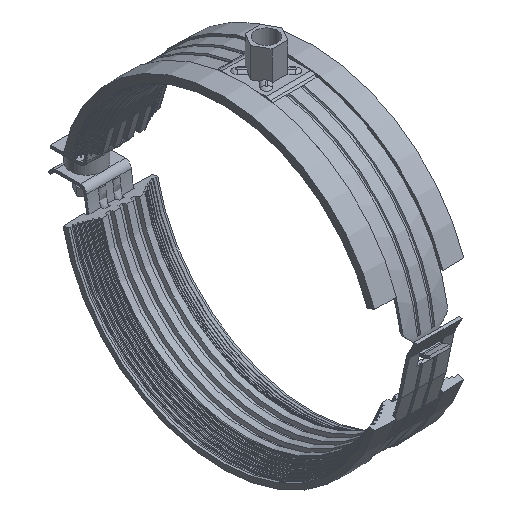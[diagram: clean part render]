
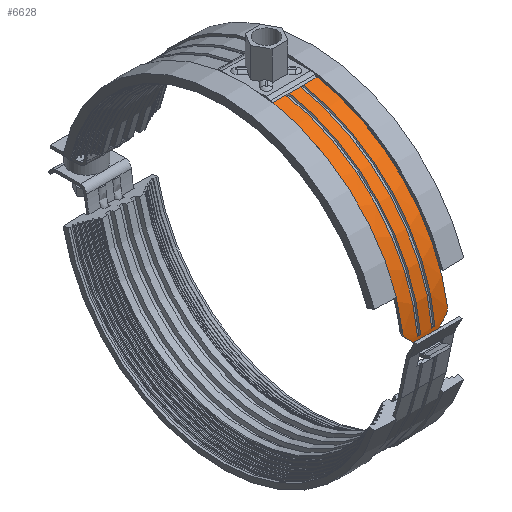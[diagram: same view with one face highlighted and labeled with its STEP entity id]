
A CAD part, isometric view. The second image highlights one B-rep face of the part: STEP entity #6628.
In plain terms, the highlighted cylindrical face has radius 89.5 mm (diameter 179 mm), a partial arc.
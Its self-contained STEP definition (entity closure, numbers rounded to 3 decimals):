
#41=B_SPLINE_CURVE_WITH_KNOTS('',3,(#10910,#10911,#10912,#10913,#10914,
#10915),.UNSPECIFIED.,.F.,.F.,(4,2,4),(0.863,0.942,
1.131),.UNSPECIFIED.);
#43=B_SPLINE_CURVE_WITH_KNOTS('',3,(#10926,#10927,#10928,#10929,#10930,
#10931),.UNSPECIFIED.,.F.,.F.,(4,2,4),(1.884,2.073,
2.152),.UNSPECIFIED.);
#45=B_SPLINE_CURVE_WITH_KNOTS('',3,(#10948,#10949,#10950,#10951,#10952,
#10953),.UNSPECIFIED.,.F.,.F.,(4,2,4),(0.607,0.759,
0.911),.UNSPECIFIED.);
#46=B_SPLINE_CURVE_WITH_KNOTS('',3,(#10957,#10958,#10959,#10960,#10961,
#10962),.UNSPECIFIED.,.F.,.F.,(4,2,4),(0.302,0.453,
0.605),.UNSPECIFIED.);
#201=ELLIPSE('',#7207,126.572,89.5);
#202=ELLIPSE('',#7211,126.572,89.5);
#263=CYLINDRICAL_SURFACE('',#7215,89.5);
#512=CIRCLE('',#7112,89.5);
#513=CIRCLE('',#7113,89.5);
#516=CIRCLE('',#7119,89.5);
#517=CIRCLE('',#7120,89.5);
#564=CIRCLE('',#7213,89.5);
#565=CIRCLE('',#7216,89.5);
#928=FACE_OUTER_BOUND('',#1286,.T.);
#1286=EDGE_LOOP('',(#5087,#5088,#5089,#5090,#5091,#5092,#5093,#5094,#5095,
#5096,#5097,#5098,#5099,#5100,#5101,#5102,#5103,#5104));
#1641=LINE('',#10470,#2148);
#1649=LINE('',#10505,#2156);
#1692=LINE('',#10773,#2199);
#1693=LINE('',#10777,#2200);
#1694=LINE('',#10778,#2201);
#1713=LINE('',#10963,#2220);
#2148=VECTOR('',#8424,1.776);
#2156=VECTOR('',#8446,1.776);
#2199=VECTOR('',#8597,7.612);
#2200=VECTOR('',#8602,7.612);
#2201=VECTOR('',#8603,6.224);
#2220=VECTOR('',#8700,11.255);
#2742=VERTEX_POINT('',#10453);
#2743=VERTEX_POINT('',#10455);
#2744=VERTEX_POINT('',#10464);
#2745=VERTEX_POINT('',#10466);
#2750=VERTEX_POINT('',#10488);
#2751=VERTEX_POINT('',#10490);
#2752=VERTEX_POINT('',#10499);
#2753=VERTEX_POINT('',#10501);
#2792=VERTEX_POINT('',#10772);
#2793=VERTEX_POINT('',#10775);
#2805=VERTEX_POINT('',#10890);
#2806=VERTEX_POINT('',#10892);
#2808=VERTEX_POINT('',#10897);
#2810=VERTEX_POINT('',#10917);
#2812=VERTEX_POINT('',#10925);
#2814=VERTEX_POINT('',#10940);
#2815=VERTEX_POINT('',#10944);
#2816=VERTEX_POINT('',#10955);
#3488=EDGE_CURVE('',#2742,#2743,#512,.T.);
#3490=EDGE_CURVE('',#2745,#2744,#513,.T.);
#3492=EDGE_CURVE('',#2743,#2745,#1641,.T.);
#3500=EDGE_CURVE('',#2750,#2751,#516,.T.);
#3502=EDGE_CURVE('',#2753,#2752,#517,.T.);
#3504=EDGE_CURVE('',#2751,#2753,#1649,.T.);
#3579=EDGE_CURVE('',#2792,#2742,#1692,.T.);
#3582=EDGE_CURVE('',#2752,#2793,#1693,.T.);
#3583=EDGE_CURVE('',#2744,#2750,#1694,.T.);
#3612=EDGE_CURVE('',#2806,#2805,#201,.T.);
#3617=EDGE_CURVE('',#2808,#2806,#41,.T.);
#3619=EDGE_CURVE('',#2812,#2810,#43,.T.);
#3624=EDGE_CURVE('',#2814,#2812,#202,.T.);
#3626=EDGE_CURVE('',#2792,#2815,#564,.T.);
#3627=EDGE_CURVE('',#2815,#2805,#45,.T.);
#3628=EDGE_CURVE('',#2816,#2793,#565,.T.);
#3629=EDGE_CURVE('',#2814,#2816,#46,.T.);
#3630=EDGE_CURVE('',#2808,#2810,#1713,.T.);
#5087=ORIENTED_EDGE('',*,*,#3490,.T.);
#5088=ORIENTED_EDGE('',*,*,#3583,.T.);
#5089=ORIENTED_EDGE('',*,*,#3500,.T.);
#5090=ORIENTED_EDGE('',*,*,#3504,.T.);
#5091=ORIENTED_EDGE('',*,*,#3502,.T.);
#5092=ORIENTED_EDGE('',*,*,#3582,.T.);
#5093=ORIENTED_EDGE('',*,*,#3628,.F.);
#5094=ORIENTED_EDGE('',*,*,#3629,.F.);
#5095=ORIENTED_EDGE('',*,*,#3624,.T.);
#5096=ORIENTED_EDGE('',*,*,#3619,.T.);
#5097=ORIENTED_EDGE('',*,*,#3630,.F.);
#5098=ORIENTED_EDGE('',*,*,#3617,.T.);
#5099=ORIENTED_EDGE('',*,*,#3612,.T.);
#5100=ORIENTED_EDGE('',*,*,#3627,.F.);
#5101=ORIENTED_EDGE('',*,*,#3626,.F.);
#5102=ORIENTED_EDGE('',*,*,#3579,.T.);
#5103=ORIENTED_EDGE('',*,*,#3488,.T.);
#5104=ORIENTED_EDGE('',*,*,#3492,.T.);
#6628=ADVANCED_FACE('',(#928),#263,.T.);
#7112=AXIS2_PLACEMENT_3D('',#10457,#8416,#8417);
#7113=AXIS2_PLACEMENT_3D('',#10467,#8419,#8420);
#7119=AXIS2_PLACEMENT_3D('',#10492,#8438,#8439);
#7120=AXIS2_PLACEMENT_3D('',#10502,#8441,#8442);
#7207=AXIS2_PLACEMENT_3D('',#10893,#8674,#8675);
#7211=AXIS2_PLACEMENT_3D('',#10942,#8687,#8688);
#7213=AXIS2_PLACEMENT_3D('',#10946,#8692,#8693);
#7215=AXIS2_PLACEMENT_3D('',#10954,#8696,#8697);
#7216=AXIS2_PLACEMENT_3D('',#10956,#8698,#8699);
#8416=DIRECTION('center_axis',(1.,0.,0.));
#8417=DIRECTION('ref_axis',(0.,-0.176,0.984));
#8419=DIRECTION('center_axis',(-1.,0.,0.));
#8420=DIRECTION('ref_axis',(0.,-0.176,0.984));
#8424=DIRECTION('',(-1.,0.,0.));
#8438=DIRECTION('center_axis',(1.,0.,0.));
#8439=DIRECTION('ref_axis',(0.,-0.176,0.984));
#8441=DIRECTION('center_axis',(-1.,0.,0.));
#8442=DIRECTION('ref_axis',(0.,-0.176,0.984));
#8446=DIRECTION('',(-1.,0.,0.));
#8597=DIRECTION('',(-1.,0.,0.));
#8602=DIRECTION('',(-1.,0.,0.));
#8603=DIRECTION('',(-1.,0.,0.));
#8674=DIRECTION('center_axis',(-0.707,0.,0.707));
#8675=DIRECTION('ref_axis',(-0.707,0.,-0.707));
#8687=DIRECTION('center_axis',(0.707,0.,0.707));
#8688=DIRECTION('ref_axis',(0.707,0.,-0.707));
#8692=DIRECTION('center_axis',(1.,0.,0.));
#8693=DIRECTION('ref_axis',(0.,0.176,-0.984));
#8696=DIRECTION('center_axis',(1.,0.,0.));
#8697=DIRECTION('ref_axis',(0.,0.176,-0.984));
#8698=DIRECTION('center_axis',(-1.,0.,0.));
#8699=DIRECTION('ref_axis',(0.,0.176,-0.984));
#8700=DIRECTION('',(-1.,0.,0.));
#10453=CARTESIAN_POINT('',(4.888,-15.793,88.096));
#10455=CARTESIAN_POINT('',(4.888,-89.117,8.269));
#10457=CARTESIAN_POINT('Origin',(4.888,0.,
0.));
#10464=CARTESIAN_POINT('',(3.112,-15.793,88.096));
#10466=CARTESIAN_POINT('',(3.112,-89.117,8.269));
#10467=CARTESIAN_POINT('Origin',(3.112,0.,
0.));
#10470=CARTESIAN_POINT('',(0.,-89.117,8.269));
#10488=CARTESIAN_POINT('',(-3.112,-15.793,88.096));
#10490=CARTESIAN_POINT('',(-3.112,-89.117,8.269));
#10492=CARTESIAN_POINT('Origin',(-3.112,0.,
0.));
#10499=CARTESIAN_POINT('',(-4.888,-15.793,88.096));
#10501=CARTESIAN_POINT('',(-4.888,-89.117,8.269));
#10502=CARTESIAN_POINT('Origin',(-4.888,0.,
0.));
#10505=CARTESIAN_POINT('',(0.,-89.117,8.269));
#10772=CARTESIAN_POINT('',(12.5,-15.793,88.096));
#10773=CARTESIAN_POINT('',(0.,-15.793,88.096));
#10775=CARTESIAN_POINT('',(-12.5,-15.793,88.096));
#10777=CARTESIAN_POINT('',(0.,-15.793,88.096));
#10778=CARTESIAN_POINT('',(0.,-15.793,88.096));
#10890=CARTESIAN_POINT('',(11.328,-88.862,10.668));
#10892=CARTESIAN_POINT('',(6.964,-89.278,6.304));
#10893=CARTESIAN_POINT('Origin',(0.66,0.,0.));
#10897=CARTESIAN_POINT('',(5.628,-89.415,3.891));
#10910=CARTESIAN_POINT('Ctrl Pts',(5.628,-89.415,3.891));
#10911=CARTESIAN_POINT('Ctrl Pts',(5.69,-89.404,4.16));
#10912=CARTESIAN_POINT('Ctrl Pts',(5.774,-89.391,4.426));
#10913=CARTESIAN_POINT('Ctrl Pts',(6.136,-89.345,5.299));
#10914=CARTESIAN_POINT('Ctrl Pts',(6.521,-89.309,5.861));
#10915=CARTESIAN_POINT('Ctrl Pts',(6.964,-89.278,6.304));
#10917=CARTESIAN_POINT('',(-5.628,-89.415,3.891));
#10925=CARTESIAN_POINT('',(-6.964,-89.278,6.304));
#10926=CARTESIAN_POINT('Ctrl Pts',(-6.964,-89.278,
6.304));
#10927=CARTESIAN_POINT('Ctrl Pts',(-6.521,-89.309,
5.861));
#10928=CARTESIAN_POINT('Ctrl Pts',(-6.136,-89.345,
5.299));
#10929=CARTESIAN_POINT('Ctrl Pts',(-5.774,-89.391,
4.426));
#10930=CARTESIAN_POINT('Ctrl Pts',(-5.69,-89.404,
4.16));
#10931=CARTESIAN_POINT('Ctrl Pts',(-5.628,-89.415,
3.891));
#10940=CARTESIAN_POINT('',(-11.328,-88.862,10.668));
#10942=CARTESIAN_POINT('Origin',(-0.66,0.,0.));
#10944=CARTESIAN_POINT('',(12.5,-88.476,13.497));
#10946=CARTESIAN_POINT('Origin',(12.5,0.,0.));
#10948=CARTESIAN_POINT('Ctrl Pts',(12.5,-88.476,13.497));
#10949=CARTESIAN_POINT('Ctrl Pts',(12.5,-88.553,12.996));
#10950=CARTESIAN_POINT('Ctrl Pts',(12.4,-88.63,12.46));
#10951=CARTESIAN_POINT('Ctrl Pts',(11.992,-88.763,11.474));
#10952=CARTESIAN_POINT('Ctrl Pts',(11.684,-88.819,11.024));
#10953=CARTESIAN_POINT('Ctrl Pts',(11.328,-88.862,10.668));
#10954=CARTESIAN_POINT('Origin',(0.,0.,0.));
#10955=CARTESIAN_POINT('',(-12.5,-88.476,13.497));
#10956=CARTESIAN_POINT('Origin',(-12.5,0.,0.));
#10957=CARTESIAN_POINT('Ctrl Pts',(-11.328,-88.862,
10.668));
#10958=CARTESIAN_POINT('Ctrl Pts',(-11.684,-88.819,
11.024));
#10959=CARTESIAN_POINT('Ctrl Pts',(-11.992,-88.763,
11.474));
#10960=CARTESIAN_POINT('Ctrl Pts',(-12.4,-88.63,12.46));
#10961=CARTESIAN_POINT('Ctrl Pts',(-12.5,-88.553,12.996));
#10962=CARTESIAN_POINT('Ctrl Pts',(-12.5,-88.476,13.497));
#10963=CARTESIAN_POINT('',(0.,-89.415,3.891));
